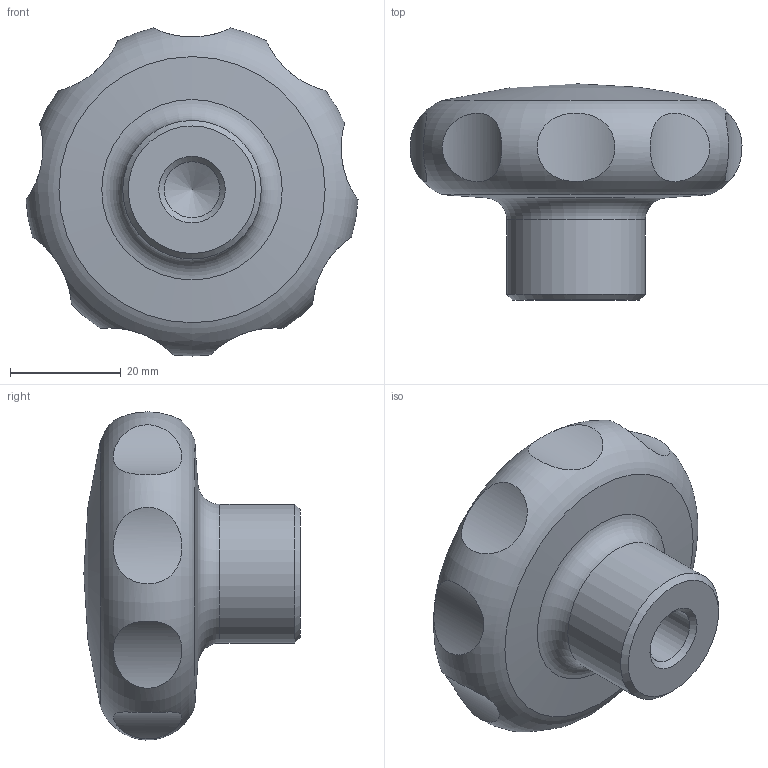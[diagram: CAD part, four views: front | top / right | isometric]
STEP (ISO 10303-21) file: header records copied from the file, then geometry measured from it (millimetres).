
FILE_DESCRIPTION( ( 'STEP AP203' ), '1' );
FILE_NAME( 'C:/Temp/Ganter_Step_05_03_2020/data/2_2/gn_5335/gn_5335_ni_e/Stainless steel-Star knob GN 5335-60-M12-E.stp', '2020-03-05T12:10:26', ( 'License CC BY-ND 4.0' ), ( 'CADENAS' ), ' ', 'PARTsolutions', ' ' );
FILE_SCHEMA( ( 'CONFIG_CONTROL_DESIGN' ) );
Length unit declared in the file: millimetre
Products named in the file (1): _Stainless steel-Star knob GN 5335-60-M12-E
Bounding box: 59.88 x 39 x 59.16 mm (x, y, z)
Volume: 52327.8 mm3; surface area: 9510.9 mm2
Topology: 1 solids, 1 shells, 19 faces, 30 edges, 21 vertices
Faces by surface type: cylinder 11, cone 3, torus 2, sphere 2, plane 1
Full cylindrical faces by diameter (mm): 10.106 x1, 25 x1
Entity records: 1174 total; most frequent: CARTESIAN_POINT 830, DIRECTION 58, EDGE_LOOP 36, ORIENTED_EDGE 36, AXIS2_PLACEMENT_3D 29, FACE_OUTER_BOUND 24, VERTEX_POINT 21, ADVANCED_FACE 19
